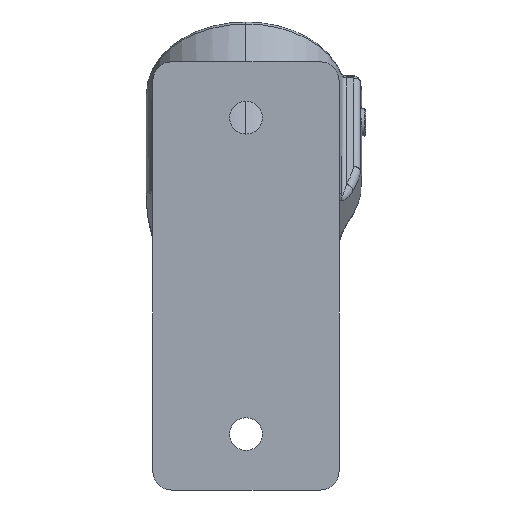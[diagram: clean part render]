
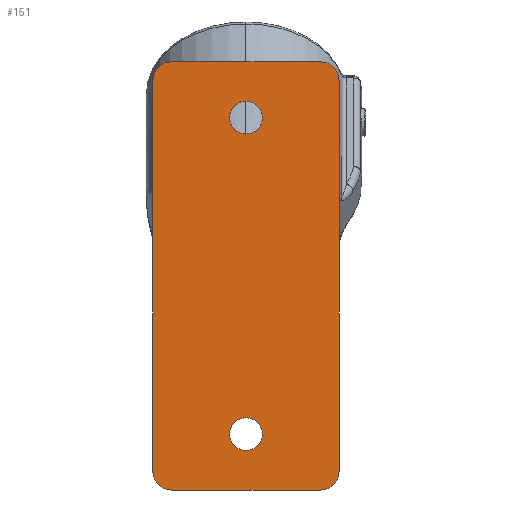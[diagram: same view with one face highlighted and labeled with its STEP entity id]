
A CAD part, front view. The second image highlights one B-rep face of the part: STEP entity #151.
In plain terms, the highlighted planar face has unit normal (0, -1, 0).
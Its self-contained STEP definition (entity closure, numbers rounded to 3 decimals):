
#151=ADVANCED_FACE('',(#459,#460,#303),#1385,.T.);
#303=FACE_OUTER_BOUND('',#477,.F.);
#459=FACE_BOUND('',#475,.F.);
#460=FACE_BOUND('',#476,.F.);
#475=EDGE_LOOP('',(#661,#662));
#476=EDGE_LOOP('',(#663,#664));
#477=EDGE_LOOP('',(#665,#666,#667,#668,#669,#670,#671,#672));
#661=ORIENTED_EDGE('',*,*,#1697,.T.);
#662=ORIENTED_EDGE('',*,*,#1696,.T.);
#663=ORIENTED_EDGE('',*,*,#1693,.T.);
#664=ORIENTED_EDGE('',*,*,#1692,.T.);
#665=ORIENTED_EDGE('',*,*,#1720,.F.);
#666=ORIENTED_EDGE('',*,*,#1700,.F.);
#667=ORIENTED_EDGE('',*,*,#1721,.F.);
#668=ORIENTED_EDGE('',*,*,#1704,.F.);
#669=ORIENTED_EDGE('',*,*,#1722,.F.);
#670=ORIENTED_EDGE('',*,*,#1712,.F.);
#671=ORIENTED_EDGE('',*,*,#1723,.F.);
#672=ORIENTED_EDGE('',*,*,#1708,.F.);
#1385=PLANE('',#2659);
#1433=CIRCLE('',#2540,5.588);
#1434=CIRCLE('',#2541,5.588);
#1437=CIRCLE('',#2544,5.588);
#1438=CIRCLE('',#2545,5.588);
#1441=CIRCLE('',#2548,6.35);
#1443=CIRCLE('',#2550,6.35);
#1445=CIRCLE('',#2552,6.35);
#1447=CIRCLE('',#2554,6.35);
#1692=EDGE_CURVE('',#2502,#2501,#1433,.T.);
#1693=EDGE_CURVE('',#2501,#2502,#1434,.T.);
#1696=EDGE_CURVE('',#2498,#2497,#1437,.T.);
#1697=EDGE_CURVE('',#2497,#2498,#1438,.T.);
#1700=EDGE_CURVE('',#2494,#2493,#1441,.T.);
#1704=EDGE_CURVE('',#2490,#2489,#1443,.T.);
#1708=EDGE_CURVE('',#2486,#2485,#1445,.T.);
#1712=EDGE_CURVE('',#2482,#2481,#1447,.T.);
#1720=EDGE_CURVE('',#2493,#2486,#2073,.T.);
#1721=EDGE_CURVE('',#2489,#2494,#2074,.T.);
#1722=EDGE_CURVE('',#2481,#2490,#2075,.T.);
#1723=EDGE_CURVE('',#2485,#2482,#2076,.T.);
#2073=LINE('',#3945,#2201);
#2074=LINE('',#3946,#2202);
#2075=LINE('',#3947,#2203);
#2076=LINE('',#3948,#2204);
#2201=VECTOR('',#2848,133.35);
#2202=VECTOR('',#2849,50.8);
#2203=VECTOR('',#2850,133.35);
#2204=VECTOR('',#2851,50.8);
#2481=VERTEX_POINT('',#3605);
#2482=VERTEX_POINT('',#3606);
#2485=VERTEX_POINT('',#3609);
#2486=VERTEX_POINT('',#3610);
#2489=VERTEX_POINT('',#3613);
#2490=VERTEX_POINT('',#3614);
#2493=VERTEX_POINT('',#3617);
#2494=VERTEX_POINT('',#3618);
#2497=VERTEX_POINT('',#3621);
#2498=VERTEX_POINT('',#3622);
#2501=VERTEX_POINT('',#3625);
#2502=VERTEX_POINT('',#3626);
#2540=AXIS2_PLACEMENT_3D('',#3917,#2804,#2805);
#2541=AXIS2_PLACEMENT_3D('',#3918,#2806,#2807);
#2544=AXIS2_PLACEMENT_3D('',#3921,#2812,#2813);
#2545=AXIS2_PLACEMENT_3D('',#3922,#2814,#2815);
#2548=AXIS2_PLACEMENT_3D('',#3925,#2820,#2821);
#2550=AXIS2_PLACEMENT_3D('',#3929,#2826,#2827);
#2552=AXIS2_PLACEMENT_3D('',#3933,#2832,#2833);
#2554=AXIS2_PLACEMENT_3D('',#3937,#2838,#2839);
#2659=AXIS2_PLACEMENT_3D('',#5091,#3140,#3141);
#2804=DIRECTION('',(0.,-1.,0.));
#2805=DIRECTION('',(1.,0.,0.));
#2806=DIRECTION('',(0.,-1.,0.));
#2807=DIRECTION('',(-1.,0.,0.));
#2812=DIRECTION('',(0.,-1.,0.));
#2813=DIRECTION('',(1.,0.,0.));
#2814=DIRECTION('',(0.,-1.,0.));
#2815=DIRECTION('',(-1.,0.,0.));
#2820=DIRECTION('',(0.,-1.,0.));
#2821=DIRECTION('',(0.,0.,1.));
#2826=DIRECTION('',(0.,-1.,0.));
#2827=DIRECTION('',(1.,0.,0.));
#2832=DIRECTION('',(0.,-1.,0.));
#2833=DIRECTION('',(-1.,0.,0.));
#2838=DIRECTION('',(0.,-1.,0.));
#2839=DIRECTION('',(0.,0.,-1.));
#2848=DIRECTION('',(0.,0.,-1.));
#2849=DIRECTION('',(-1.,0.,0.));
#2850=DIRECTION('',(0.,0.,1.));
#2851=DIRECTION('',(1.,0.,0.));
#3140=DIRECTION('',(0.,-1.,0.));
#3141=DIRECTION('',(-1.,0.,0.));
#3605=CARTESIAN_POINT('',(31.75,35.804,-83.965));
#3606=CARTESIAN_POINT('',(25.4,35.804,-90.315));
#3609=CARTESIAN_POINT('',(-25.4,35.804,-90.315));
#3610=CARTESIAN_POINT('',(-31.75,35.804,-83.965));
#3613=CARTESIAN_POINT('',(25.4,35.804,55.735));
#3614=CARTESIAN_POINT('',(31.75,35.804,49.385));
#3617=CARTESIAN_POINT('',(-31.75,35.804,49.385));
#3618=CARTESIAN_POINT('',(-25.4,35.804,55.735));
#3621=CARTESIAN_POINT('',(-5.588,35.804,36.685));
#3622=CARTESIAN_POINT('',(5.588,35.804,36.685));
#3625=CARTESIAN_POINT('',(-5.588,35.804,-71.265));
#3626=CARTESIAN_POINT('',(5.588,35.804,-71.265));
#3917=CARTESIAN_POINT('',(0.,35.804,-71.265));
#3918=CARTESIAN_POINT('',(0.,35.804,-71.265));
#3921=CARTESIAN_POINT('',(0.,35.804,36.685));
#3922=CARTESIAN_POINT('',(0.,35.804,36.685));
#3925=CARTESIAN_POINT('',(-25.4,35.804,49.385));
#3929=CARTESIAN_POINT('',(25.4,35.804,49.385));
#3933=CARTESIAN_POINT('',(-25.4,35.804,-83.965));
#3937=CARTESIAN_POINT('',(25.4,35.804,-83.965));
#3945=CARTESIAN_POINT('',(-31.75,35.804,49.385));
#3946=CARTESIAN_POINT('',(25.4,35.804,55.735));
#3947=CARTESIAN_POINT('',(31.75,35.804,-83.965));
#3948=CARTESIAN_POINT('',(-25.4,35.804,-90.315));
#5091=CARTESIAN_POINT('',(33.211,35.804,57.196));
